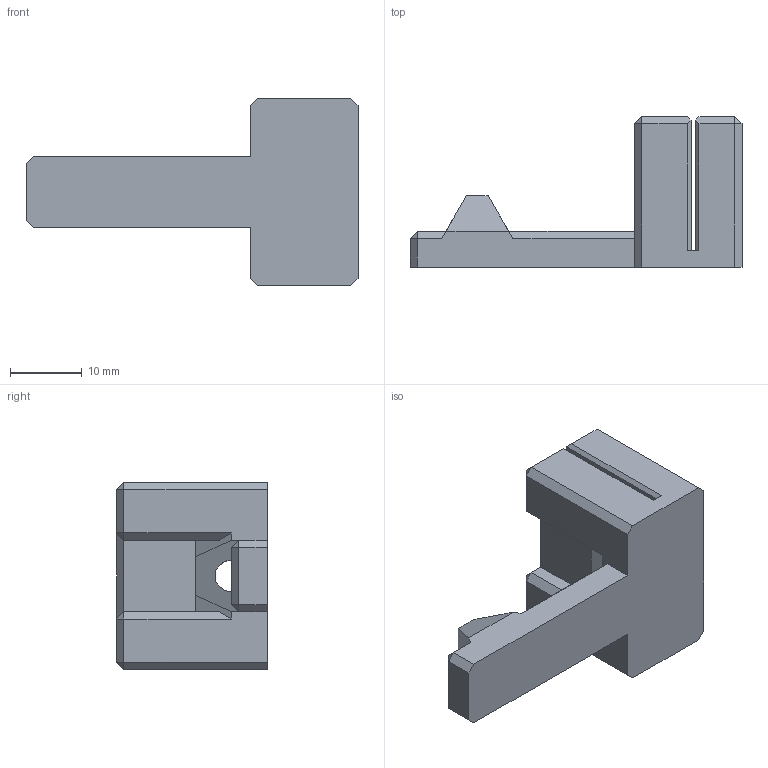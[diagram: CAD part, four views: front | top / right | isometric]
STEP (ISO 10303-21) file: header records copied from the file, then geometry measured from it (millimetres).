
FILE_DESCRIPTION (( 'STEP AP214' ), '1' );
FILE_NAME ('Bondtech PTFE Cutter Prusa Mini.STEP', '2021-03-12T12:23:32', ( '' ), ( '' ), 'SwSTEP 2.0', 'SolidWorks 2020', '' );
FILE_SCHEMA (( 'AUTOMOTIVE_DESIGN' ));
Length unit declared in the file: millimetre
Products named in the file (1): Bondtech PTFE Cutter Prusa Mini
Bounding box: 46.3 x 21 x 26 mm (x, y, z)
Volume: 8669.5 mm3; surface area: 4623.1 mm2
Topology: 1 solids, 1 shells, 81 faces, 208 edges, 126 vertices
Faces by surface type: plane 73, cylinder 8
Entity records: 2414 total; most frequent: CARTESIAN_POINT 434, ORIENTED_EDGE 416, DIRECTION 376, EDGE_CURVE 208, VECTOR 192, LINE 192, VERTEX_POINT 126, AXIS2_PLACEMENT_3D 92
